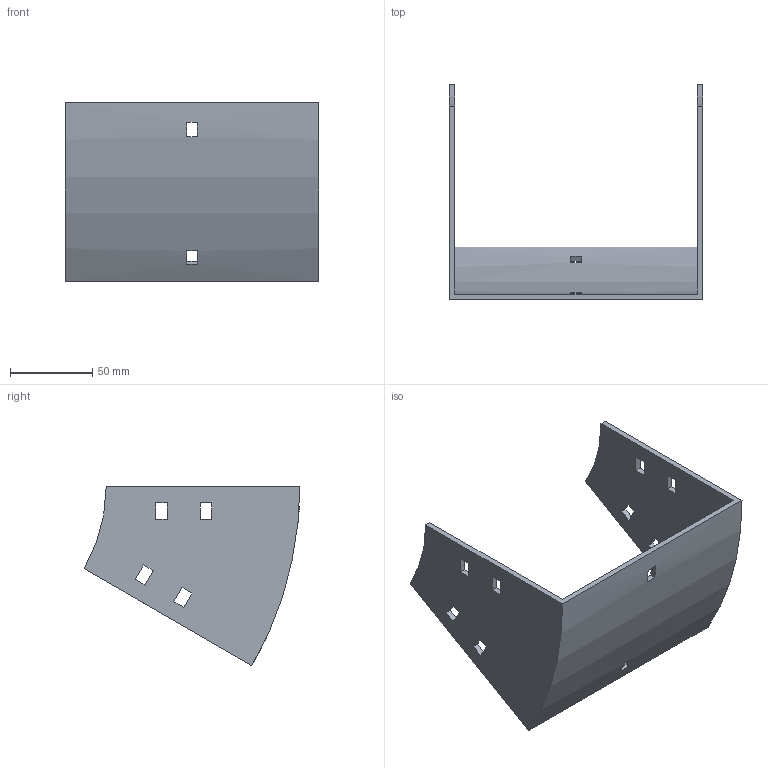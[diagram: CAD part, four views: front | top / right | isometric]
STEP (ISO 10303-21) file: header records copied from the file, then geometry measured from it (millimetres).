
FILE_DESCRIPTION (( 'STEP AP214' ), '1' );
FILE_NAME ('32B1J150.step', '2025-02-21T09:42:54', ( '' ), ( '' ), 'SwSTEP 2.0', 'SolidWorks 2023', '' );
FILE_SCHEMA (( 'AUTOMOTIVE_DESIGN' ));
Length unit declared in the file: millimetre
Products named in the file (1): 32B1J150
Bounding box: 154 x 130.9 x 108.75 mm (x, y, z)
Volume: 124117.8 mm3; surface area: 75141 mm2
Topology: 1 solids, 1 shells, 50 faces, 144 edges, 96 vertices
Faces by surface type: plane 46, cylinder 4
Entity records: 1687 total; most frequent: CARTESIAN_POINT 291, ORIENTED_EDGE 288, DIRECTION 262, EDGE_CURVE 144, LINE 128, VECTOR 128, VERTEX_POINT 96, EDGE_LOOP 70
